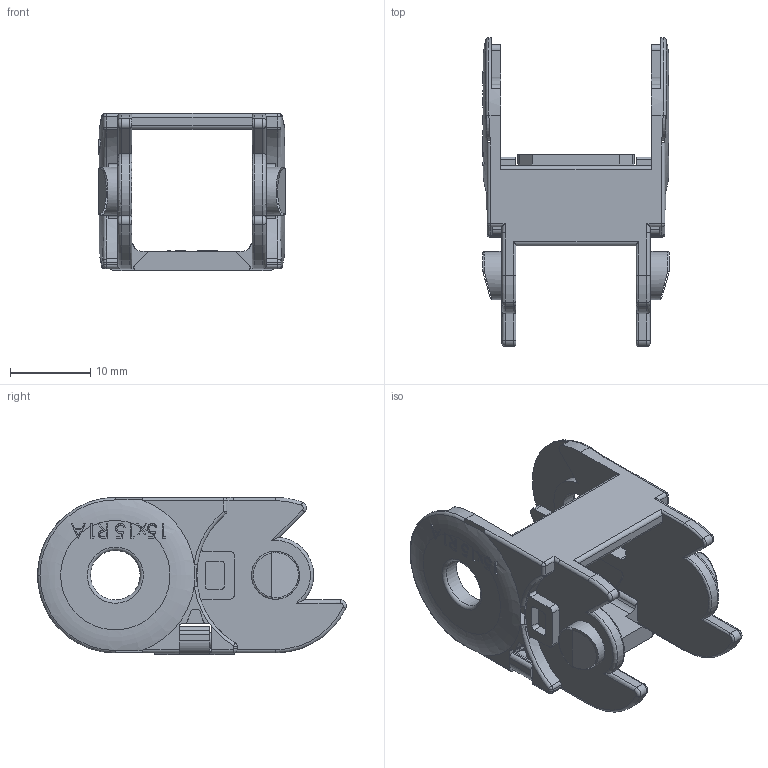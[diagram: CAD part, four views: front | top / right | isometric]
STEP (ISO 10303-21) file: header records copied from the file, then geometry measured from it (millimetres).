
FILE_DESCRIPTION((''),'2; 1');
FILE_NAME('','2026-03-26T10:12:12',(''),(''),'CST STEP Exporter V1.0','Unknown','');
FILE_SCHEMA(('CONFIG_CONTROL_DESIGN'));
Length unit declared in the file: metre
Assembly tree (4 placements, depth 2):
  (unnamed)
    (unnamed)
    (unnamed)
    (unnamed)
    (unnamed)
Bounding box: 23.3 x 38.54 x 19.6 mm (x, y, z)
Surface area: 8147 mm2 (no closed solid volume)
Topology: 0 solids, 4 shells, 536 faces, 1759 edges, 1177 vertices
Faces by surface type: plane 253, cylinder 210, torus 49, extrusion 20, sphere 4
Full cylindrical faces by diameter (mm): 1.8 x2, 6 x2, 6.2 x2
Entity records: 25014 total; most frequent: CARTESIAN_POINT 5676, ORIENTED_EDGE 3109, DIRECTION 3025, EDGE_CURVE 1738, VERTEX_POINT 1168, VECTOR 1047, LINE 1027, AXIS2_PLACEMENT_3D 989
